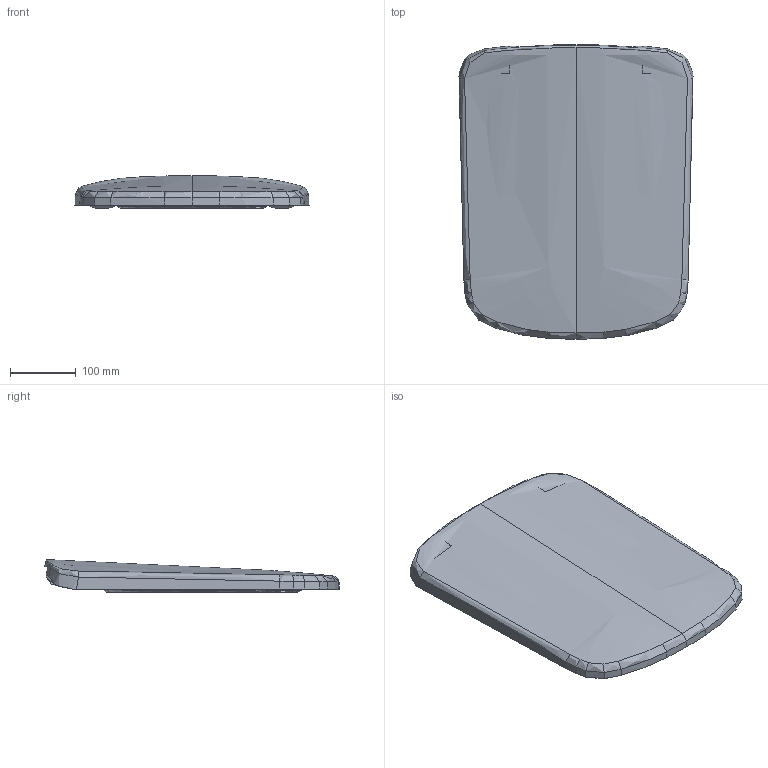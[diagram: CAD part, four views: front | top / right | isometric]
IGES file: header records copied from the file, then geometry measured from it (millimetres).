
Global section: file name: 500334; native system: Autodesk Inventor 2018; preprocessor: unknown; author: JANAN; date: 20200501.053542; units: millimetre
Bounding box: 355.68 x 447.78 x 49.67 mm (x, y, z)
Volume: 1432900.6 mm3; surface area: 560621.2 mm2
Topology: 2 solids, 2 shells, 554 faces, 1365 edges, 800 vertices
Faces by surface type: bspline 554
